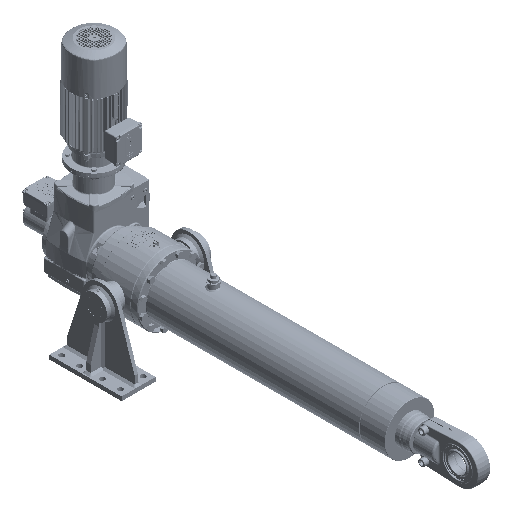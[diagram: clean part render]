
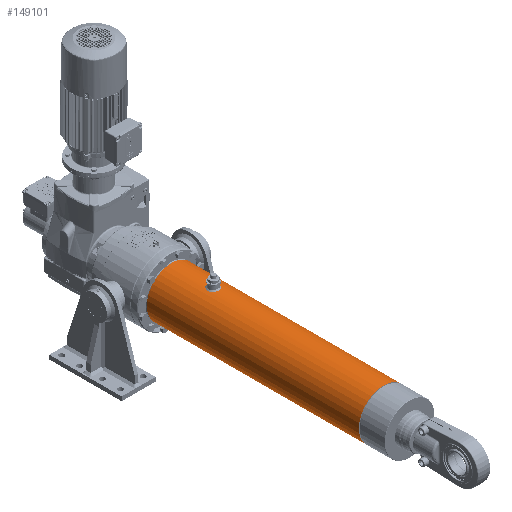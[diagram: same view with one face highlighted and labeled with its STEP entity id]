
A CAD part, isometric view. The second image highlights one B-rep face of the part: STEP entity #149101.
In plain terms, the highlighted cylindrical face has radius 110 mm (diameter 220 mm), a full revolution.
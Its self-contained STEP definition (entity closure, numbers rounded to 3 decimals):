
#1531=B_SPLINE_CURVE_WITH_KNOTS('',3,(#202763,#202764,#202765,#202766,#202767,
#202768,#202769,#202770,#202771,#202772,#202773,#202774,#202775,#202776,
#202777,#202778,#202779,#202780,#202781,#202782,#202783,#202784,#202785,
#202786,#202787,#202788,#202789,#202790,#202791,#202792,#202793,#202794,
#202795,#202796,#202797,#202798,#202799,#202800,#202801,#202802,#202803,
#202804,#202805,#202806,#202807,#202808,#202809,#202810,#202811,#202812,
#202813,#202814,#202815,#202816,#202817,#202818,#202819),.UNSPECIFIED.,
 .T.,.F.,(1,1,1,1,1,1,1,1,1,1,1,1,1,1,1,1,1,1,1,1,1,1,1,1,1,1,1,1,1,1,1,
1,1,1,1,1,1,1,1,1,1,1,1,1,1,1,1,1,1,1,1,1,1,1,1,1,1,1,1,1,1),(-0.049,
-0.033,-0.016,0.,0.015,0.03,0.045,
0.059,0.075,0.091,0.106,0.122,0.137,
0.153,0.184,0.2,0.215,0.247,
0.262,0.278,0.309,0.325,
0.34,0.372,0.387,0.403,
0.434,0.45,0.465,0.481,
0.497,0.512,0.528,0.544,
0.559,0.575,0.59,0.606,
0.622,0.637,0.653,0.684,0.7,
0.715,0.747,0.762,0.778,
0.809,0.825,0.84,0.872,
0.887,0.903,0.934,0.951,
0.967,0.984,1.,1.015,1.03,1.045),
 .UNSPECIFIED.);
#27859=ORIENTED_EDGE('',*,*,#61127,.T.);
#27860=ORIENTED_EDGE('',*,*,#61098,.T.);
#27861=ORIENTED_EDGE('',*,*,#61126,.F.);
#61098=EDGE_CURVE('',#77868,#77868,#88738,.T.);
#61126=EDGE_CURVE('',#77884,#77884,#88766,.T.);
#61127=EDGE_CURVE('',#77885,#77885,#1531,.T.);
#77868=VERTEX_POINT('',#202702);
#77884=VERTEX_POINT('',#202761);
#77885=VERTEX_POINT('',#202820);
#88738=CIRCLE('',#155613,110.);
#88766=CIRCLE('',#155656,110.);
#94602=EDGE_LOOP('',(#27859));
#94603=EDGE_LOOP('',(#27860));
#94604=EDGE_LOOP('',(#27861));
#102251=FACE_BOUND('',#94602,.T.);
#102252=FACE_BOUND('',#94603,.T.);
#102253=FACE_BOUND('',#94604,.T.);
#109613=CYLINDRICAL_SURFACE('',#155657,110.);
#149101=ADVANCED_FACE('',(#102251,#102252,#102253),#109613,.T.);
#155613=AXIS2_PLACEMENT_3D('',#202701,#168423,#168424);
#155656=AXIS2_PLACEMENT_3D('',#202760,#168509,#168510);
#155657=AXIS2_PLACEMENT_3D('',#202762,#168511,#168512);
#168423=DIRECTION('',(0.,-1.,0.));
#168424=DIRECTION('',(1.,0.,0.));
#168509=DIRECTION('',(0.,-1.,0.));
#168510=DIRECTION('',(1.,0.,0.));
#168511=DIRECTION('',(0.,-1.,0.));
#168512=DIRECTION('',(1.,0.,0.));
#202701=CARTESIAN_POINT('',(0.,-35.949,0.));
#202702=CARTESIAN_POINT('',(110.,-35.949,0.));
#202760=CARTESIAN_POINT('',(0.,-973.85,0.));
#202761=CARTESIAN_POINT('',(110.,-973.85,0.));
#202762=CARTESIAN_POINT('',(0.,-1888.,0.));
#202763=CARTESIAN_POINT('',(-24.808,-223.126,107.166));
#202764=CARTESIAN_POINT('',(-24.936,-220.586,107.136));
#202765=CARTESIAN_POINT('',(-24.824,-218.129,107.162));
#202766=CARTESIAN_POINT('',(-24.501,-215.812,107.237));
#202767=CARTESIAN_POINT('',(-23.962,-213.538,107.359));
#202768=CARTESIAN_POINT('',(-23.188,-211.257,107.529));
#202769=CARTESIAN_POINT('',(-22.193,-209.035,107.74));
#202770=CARTESIAN_POINT('',(-20.99,-206.926,107.982));
#202771=CARTESIAN_POINT('',(-19.585,-204.948,108.246));
#202772=CARTESIAN_POINT('',(-17.97,-203.096,108.527));
#202773=CARTESIAN_POINT('',(-16.179,-201.404,108.809));
#202774=CARTESIAN_POINT('',(-13.627,-199.43,109.167));
#202775=CARTESIAN_POINT('',(-10.793,-197.847,109.488));
#202776=CARTESIAN_POINT('',(-7.711,-196.674,109.738));
#202777=CARTESIAN_POINT('',(-4.586,-195.824,109.924));
#202778=CARTESIAN_POINT('',(-1.352,-195.443,110.013));
#202779=CARTESIAN_POINT('',(1.95,-195.534,109.992));
#202780=CARTESIAN_POINT('',(5.165,-195.939,109.899));
#202781=CARTESIAN_POINT('',(8.301,-196.819,109.705));
#202782=CARTESIAN_POINT('',(11.31,-198.16,109.424));
#202783=CARTESIAN_POINT('',(14.118,-199.758,109.105));
#202784=CARTESIAN_POINT('',(16.661,-201.756,108.742));
#202785=CARTESIAN_POINT('',(18.936,-204.159,108.362));
#202786=CARTESIAN_POINT('',(20.925,-206.727,107.999));
#202787=CARTESIAN_POINT('',(22.512,-209.56,107.675));
#202788=CARTESIAN_POINT('',(23.705,-212.684,107.416));
#202789=CARTESIAN_POINT('',(24.352,-215.061,107.271));
#202790=CARTESIAN_POINT('',(24.761,-217.488,107.177));
#202791=CARTESIAN_POINT('',(24.931,-219.967,107.138));
#202792=CARTESIAN_POINT('',(24.862,-222.476,107.154));
#202793=CARTESIAN_POINT('',(24.553,-224.921,107.225));
#202794=CARTESIAN_POINT('',(24.007,-227.319,107.349));
#202795=CARTESIAN_POINT('',(23.215,-229.682,107.524));
#202796=CARTESIAN_POINT('',(22.203,-231.947,107.738));
#202797=CARTESIAN_POINT('',(20.997,-234.063,107.98));
#202798=CARTESIAN_POINT('',(19.59,-236.046,108.245));
#202799=CARTESIAN_POINT('',(17.972,-237.902,108.527));
#202800=CARTESIAN_POINT('',(16.179,-239.595,108.809));
#202801=CARTESIAN_POINT('',(13.627,-241.57,109.167));
#202802=CARTESIAN_POINT('',(10.794,-243.152,109.488));
#202803=CARTESIAN_POINT('',(7.711,-244.326,109.738));
#202804=CARTESIAN_POINT('',(4.586,-245.176,109.924));
#202805=CARTESIAN_POINT('',(1.351,-245.557,110.013));
#202806=CARTESIAN_POINT('',(-1.95,-245.466,109.992));
#202807=CARTESIAN_POINT('',(-5.165,-245.061,109.899));
#202808=CARTESIAN_POINT('',(-8.3,-244.181,109.705));
#202809=CARTESIAN_POINT('',(-11.31,-242.841,109.424));
#202810=CARTESIAN_POINT('',(-14.118,-241.243,109.106));
#202811=CARTESIAN_POINT('',(-16.661,-239.243,108.742));
#202812=CARTESIAN_POINT('',(-18.937,-236.841,108.362));
#202813=CARTESIAN_POINT('',(-20.925,-234.273,107.999));
#202814=CARTESIAN_POINT('',(-22.533,-231.402,107.671));
#202815=CARTESIAN_POINT('',(-23.749,-228.192,107.407));
#202816=CARTESIAN_POINT('',(-24.41,-225.686,107.258));
#202817=CARTESIAN_POINT('',(-24.808,-223.126,107.166));
#202818=CARTESIAN_POINT('',(-24.936,-220.586,107.136));
#202819=CARTESIAN_POINT('',(-24.824,-218.129,107.162));
#202820=CARTESIAN_POINT('',(-24.896,-220.501,107.146));
